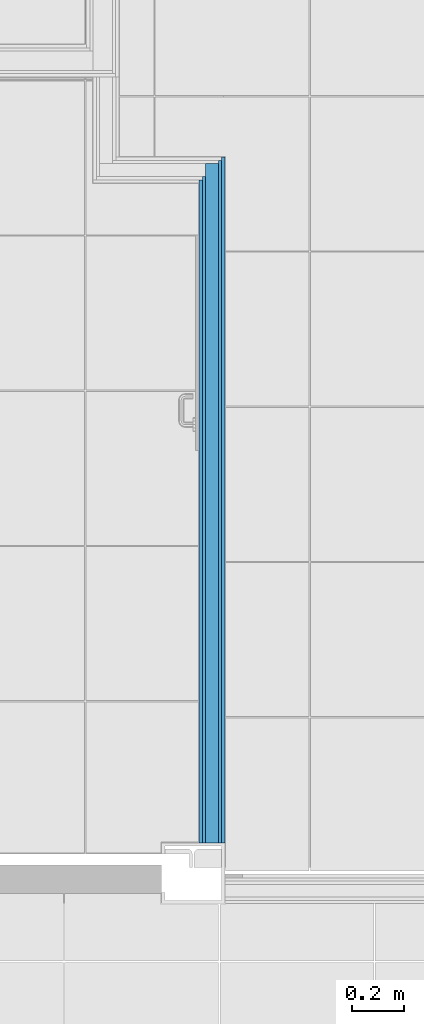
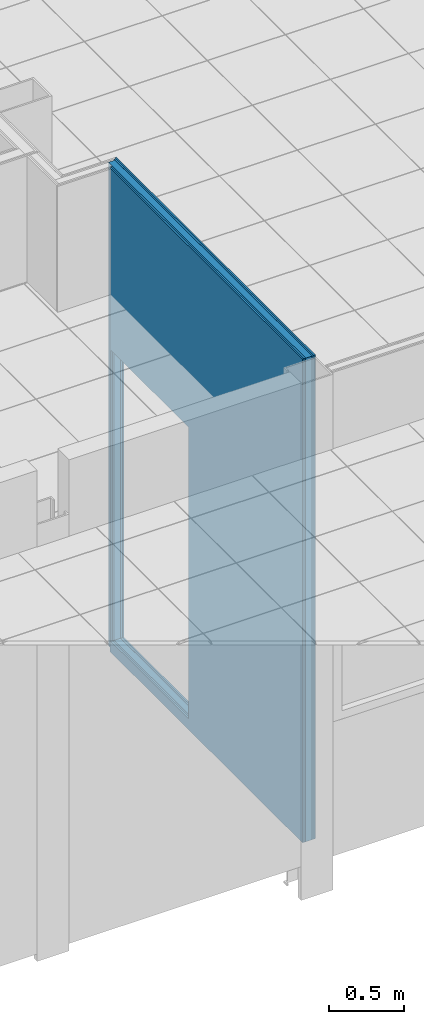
# One storey, part 23 of 321: 5 building element parts, 1 opening, 1 element without a shape of its own.
"""IFC2X3 building model written with IfcOpenShell, lengths in millimetres."""

from ifc_helpers import new_model, entity, si_unit, converted_unit, derived_unit, money_unit, direction, frame, origin_with_axes, place, context, subcontext, project, spatial, faceted_brep, material, type_object, element, aggregate, save


model = new_model("IFC2X3")

# Units and contexts
model_context = context("Model", 3, precision=0.01, world=origin_with_axes(), true_north=direction((0.0, 1.0)))
plan_context = context("Plan", 3, precision=0.01, world=origin_with_axes(), true_north=direction((0.0, 1.0)))
body_context = subcontext(model_context, "Body", "Model", "MODEL_VIEW")
ifc_project = project(units=[si_unit("LENGTHUNIT", "METRE", prefix="MILLI"), si_unit("AREAUNIT", "SQUARE_METRE"), si_unit("VOLUMEUNIT", "CUBIC_METRE"), converted_unit("PLANEANGLEUNIT", "DEGREE", entity("IfcPlaneAngleMeasure", 0.0174532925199), si_unit("PLANEANGLEUNIT", "RADIAN"), dimensions=[0, 0, 0, 0, 0, 0, 0]), money_unit("EUR"), converted_unit("TIMEUNIT", "Year", entity("IfcTimeMeasure", 31556926.0), si_unit("TIMEUNIT", "SECOND"), dimensions=[0, 0, 1, 0, 0, 0, 0]), si_unit("MASSUNIT", "GRAM", prefix="KILO"), si_unit("THERMODYNAMICTEMPERATUREUNIT", "DEGREE_CELSIUS"), si_unit("LUMINOUSINTENSITYUNIT", "LUMEN"), si_unit("ENERGYUNIT", "JOULE", prefix="MEGA"), derived_unit("THERMALCONDUCTANCEUNIT", [(si_unit("POWERUNIT", "WATT"), 1), (si_unit("LENGTHUNIT", "METRE"), -1), (si_unit("THERMODYNAMICTEMPERATUREUNIT", "KELVIN"), -1)]), derived_unit("SPECIFICHEATCAPACITYUNIT", [(si_unit("ENERGYUNIT", "JOULE"), 1), (si_unit("MASSUNIT", "GRAM", prefix="KILO"), -1), (si_unit("THERMODYNAMICTEMPERATUREUNIT", "KELVIN"), -1)]), derived_unit("MASSDENSITYUNIT", [(si_unit("MASSUNIT", "GRAM", prefix="KILO"), 1), (si_unit("VOLUMEUNIT", "CUBIC_METRE"), -1)])], contexts=[model_context, plan_context])

# Site, building, storey
site_placement = place(None, origin_with_axes())
site = spatial("IfcSite", under=ifc_project, at=site_placement, Name="Fortuinstraat Woensdrecht", CompositionType="ELEMENT")
building_placement = place(site_placement, origin_with_axes())
building = spatial("IfcBuilding", under=site, at=building_placement, Name="IKC Fortuna", CompositionType="ELEMENT")
storey_placement = place(building_placement, frame((0.0, 0.0, 4000.0), z_axis=(0.0, 0.0, 1.0), x_axis=(1.0, 0.0, 0.0)))
storey = spatial("IfcBuildingStorey", under=building, at=storey_placement, Name="01 eerste verdieping", CompositionType="ELEMENT", Elevation=4000.0)

# Wall, opening, building element parts
wall_type = type_object("IfcWallType", Name="MS100 2.50.2A 100", PredefinedType="NOTDEFINED")
wall_placement = place(storey_placement, frame((20641.9349765, 16299.7966283, -90.0), z_axis=(0.0, 0.0, 1.0), x_axis=(0.0, 1.0, 0.0)))
wall = element("IfcWall", 1, at=wall_placement, inside=storey, type_object=wall_type, Name="22_Wand_Binnenwand")
opening_placement = place(wall_placement, frame((2033.0, 0.0, 90.0), z_axis=(0.0, 0.0, 1.0), x_axis=(1.0, 0.0, 0.0)))
element("IfcOpeningElement", 2, at=opening_placement, cuts=wall, Name="32_Deur_h.01c", context=body_context, shape_type="Brep", body=[
    faceted_brep([(517.0, 100.0, 0.0), (517.0, 100.0, 2367.0), (517.0, -200.0, 2367.0), (517.0, -200.0, 0.0), (-517.0, 100.0, 0.0), (-517.0, 100.0, 2367.0), (-517.0, -200.0, 2367.0), (-517.0, -200.0, 0.0)], [[[0, 1, 2, 3]], [[0, 4, 5, 1]], [[1, 5, 6, 2]], [[3, 2, 6, 7]], [[4, 0, 3, 7]], [[5, 4, 7, 6]]]),
])
ifc_material_1 = material(Name="Gipsplaat")
building_element_part_1_placement = place(wall_placement, origin_with_axes())
building_element_part_1 = element("IfcBuildingElementPart", 3, at=building_element_part_1_placement, material=ifc_material_1, Name="Gipsplaat", context=body_context, shape_type="Brep", body=[
    faceted_brep([(0.0, 50.0, 0.0), (0.0, 50.0, 3930.0), (2562.5, 50.0, 3930.0), (2562.5, 50.0, 0.0), (1516.0, 50.0, 90.0), (2550.0, 50.0, 90.0), (2550.0, 50.0, 2457.0), (1516.0, 50.0, 2457.0), (0.0, 37.5, 0.0), (0.0, 37.5, 3930.0), (2562.5, 37.5, 3930.0), (2562.5, 37.5, 0.0), (1516.0, 37.5, 90.0), (2550.0, 37.5, 90.0), (2550.0, 37.5, 2457.0), (1516.0, 37.5, 2457.0)], [[[0, 1, 2, 3], [4, 5, 6, 7]], [[1, 0, 8, 9]], [[1, 9, 10, 2]], [[11, 3, 2, 10]], [[8, 0, 3, 11]], [[12, 13, 5, 4]], [[13, 14, 6, 5]], [[14, 15, 7, 6]], [[15, 12, 4, 7]], [[9, 8, 11, 10], [12, 15, 14, 13]]]),
])
building_element_part_2_placement = place(wall_placement, origin_with_axes())
building_element_part_2 = element("IfcBuildingElementPart", 4, at=building_element_part_2_placement, material=ifc_material_1, Name="Gipsplaat", context=body_context, shape_type="Brep", body=[
    faceted_brep([(0.0, 37.5, 0.0), (0.0, 37.5, 3930.0), (2575.0, 37.5, 3930.0), (2575.0, 37.5, 0.0), (1516.0, 37.5, 90.0), (2550.0, 37.5, 90.0), (2550.0, 37.5, 2457.0), (1516.0, 37.5, 2457.0), (0.0, 25.0, 0.0), (0.0, 25.0, 3930.0), (2575.0, 25.0, 3930.0), (2575.0, 25.0, 0.0), (1516.0, 25.0, 90.0), (2550.0, 25.0, 90.0), (2550.0, 25.0, 2457.0), (1516.0, 25.0, 2457.0)], [[[0, 1, 2, 3], [4, 5, 6, 7]], [[1, 0, 8, 9]], [[1, 9, 10, 2]], [[11, 3, 2, 10]], [[8, 0, 3, 11]], [[12, 13, 5, 4]], [[13, 14, 6, 5]], [[14, 15, 7, 6]], [[15, 12, 4, 7]], [[9, 8, 11, 10], [12, 15, 14, 13]]]),
])
ifc_material_2 = material(Name="Isolatie - Steenwol LSW")
building_element_part_3_placement = place(wall_placement, origin_with_axes())
building_element_part_3 = element("IfcBuildingElementPart", 5, at=building_element_part_3_placement, material=ifc_material_2, Name="Isolatie - Steenwol LSW", context=body_context, shape_type="Brep", body=[
    faceted_brep([(0.0, 25.0, 0.0), (0.0, 25.0, 3930.0), (2625.0, 25.0, 3930.0), (2625.0, 25.0, 0.0), (1516.0, 25.0, 90.0), (2550.0, 25.0, 90.0), (2550.0, 25.0, 2457.0), (1516.0, 25.0, 2457.0), (0.0, -25.0, 0.0), (0.0, -25.0, 3930.0), (2625.0, -25.0, 3930.0), (2625.0, -25.0, 0.0), (1516.0, -25.0, 90.0), (2550.0, -25.0, 90.0), (2550.0, -25.0, 2457.0), (1516.0, -25.0, 2457.0)], [[[0, 1, 2, 3], [4, 5, 6, 7]], [[1, 0, 8, 9]], [[1, 9, 10, 2]], [[11, 3, 2, 10]], [[8, 0, 3, 11]], [[12, 13, 5, 4]], [[13, 14, 6, 5]], [[14, 15, 7, 6]], [[15, 12, 4, 7]], [[9, 8, 11, 10], [12, 15, 14, 13]]]),
])
building_element_part_4_placement = place(wall_placement, origin_with_axes())
building_element_part_4 = element("IfcBuildingElementPart", 6, at=building_element_part_4_placement, material=ifc_material_1, Name="Gipsplaat", context=body_context, shape_type="Brep", body=[
    faceted_brep([(0.0, -25.0, 0.0), (0.0, -25.0, 3930.0), (2637.5, -25.0, 3930.0), (2637.5, -25.0, 0.0), (1516.0, -25.0, 90.0), (2550.0, -25.0, 90.0), (2550.0, -25.0, 2457.0), (1516.0, -25.0, 2457.0), (0.0, -37.5, 0.0), (0.0, -37.5, 3930.0), (2637.5, -37.5, 3930.0), (2637.5, -37.5, 0.0), (1516.0, -37.5, 90.0), (2550.0, -37.5, 90.0), (2550.0, -37.5, 2457.0), (1516.0, -37.5, 2457.0)], [[[0, 1, 2, 3], [4, 5, 6, 7]], [[1, 0, 8, 9]], [[1, 9, 10, 2]], [[11, 3, 2, 10]], [[8, 0, 3, 11]], [[12, 13, 5, 4]], [[13, 14, 6, 5]], [[14, 15, 7, 6]], [[15, 12, 4, 7]], [[9, 8, 11, 10], [12, 15, 14, 13]]]),
])
building_element_part_5_placement = place(wall_placement, origin_with_axes())
building_element_part_5 = element("IfcBuildingElementPart", 7, at=building_element_part_5_placement, material=ifc_material_1, Name="Gipsplaat", context=body_context, shape_type="Brep", body=[
    faceted_brep([(0.0, -37.5, 0.0), (0.0, -37.5, 3930.0), (2650.0, -37.5, 3930.0), (2650.0, -37.5, 0.0), (1516.0, -37.5, 90.0), (2550.0, -37.5, 90.0), (2550.0, -37.5, 2457.0), (1516.0, -37.5, 2457.0), (0.0, -50.0, 0.0), (0.0, -50.0, 3930.0), (2650.0, -50.0, 3930.0), (2650.0, -50.0, 0.0), (1516.0, -50.0, 90.0), (2550.0, -50.0, 90.0), (2550.0, -50.0, 2457.0), (1516.0, -50.0, 2457.0)], [[[0, 1, 2, 3], [4, 5, 6, 7]], [[1, 0, 8, 9]], [[1, 9, 10, 2]], [[11, 3, 2, 10]], [[8, 0, 3, 11]], [[12, 13, 5, 4]], [[13, 14, 6, 5]], [[14, 15, 7, 6]], [[15, 12, 4, 7]], [[9, 8, 11, 10], [12, 15, 14, 13]]]),
])
aggregate(wall, [building_element_part_1, building_element_part_2, building_element_part_3, building_element_part_4, building_element_part_5])

save(model, "model.ifc")
